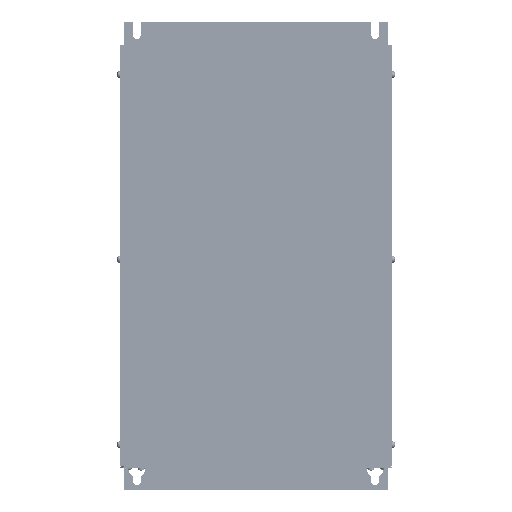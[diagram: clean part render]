
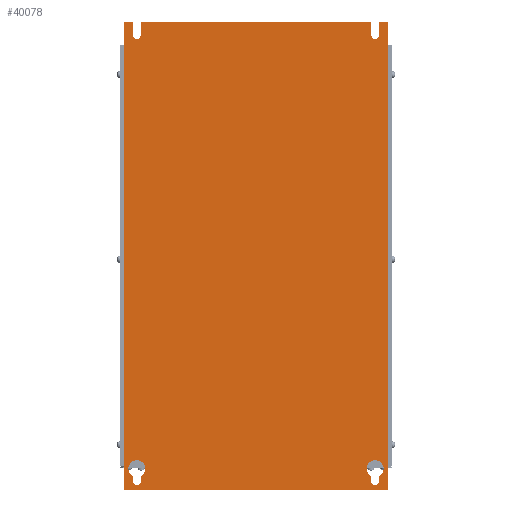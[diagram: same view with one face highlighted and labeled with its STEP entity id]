
A CAD part, front view. The second image highlights one B-rep face of the part: STEP entity #40078.
In plain terms, the highlighted planar face has unit normal (0, -1, 0).
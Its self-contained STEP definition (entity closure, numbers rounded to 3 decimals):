
#1637=DIRECTION('',(1.,0.,0.));
#1638=VECTOR('',#1637,10.5);
#1639=CARTESIAN_POINT('',(-303.,-103.,64.));
#1640=LINE('',#1639,#1638);
#1653=DIRECTION('',(0.,0.,1.));
#1654=VECTOR('',#1653,15.5);
#1655=CARTESIAN_POINT('',(-292.5,-103.,48.5));
#1656=LINE('',#1655,#1654);
#1675=DIRECTION('',(0.,0.,1.));
#1676=VECTOR('',#1675,15.5);
#1677=CARTESIAN_POINT('',(-283.5,-103.,48.5));
#1678=LINE('',#1677,#1676);
#1683=DIRECTION('',(1.,0.,0.));
#1684=VECTOR('',#1683,271.);
#1685=CARTESIAN_POINT('',(-283.5,-103.,64.));
#1686=LINE('',#1685,#1684);
#1703=DIRECTION('',(0.,0.,1.));
#1704=VECTOR('',#1703,15.5);
#1705=CARTESIAN_POINT('',(-12.5,-103.,48.5));
#1706=LINE('',#1705,#1704);
#1715=DIRECTION('',(0.,0.,-1.));
#1716=VECTOR('',#1715,550.);
#1717=CARTESIAN_POINT('',(7.,-103.,64.));
#1718=LINE('',#1717,#1716);
#1719=DIRECTION('',(-1.,0.,0.));
#1720=VECTOR('',#1719,310.);
#1721=CARTESIAN_POINT('',(7.,-103.,-486.));
#1722=LINE('',#1721,#1720);
#1723=DIRECTION('',(0.,0.,1.));
#1724=VECTOR('',#1723,550.);
#1725=CARTESIAN_POINT('',(-303.,-103.,-486.));
#1726=LINE('',#1725,#1724);
#1727=CARTESIAN_POINT('',(-288.,-103.,48.5));
#1728=DIRECTION('',(0.,1.,0.));
#1729=DIRECTION('',(1.,0.,0.));
#1730=AXIS2_PLACEMENT_3D('',#1727,#1728,#1729);
#1732=CARTESIAN_POINT('',(-8.,-103.,48.5));
#1733=DIRECTION('',(0.,1.,0.));
#1734=DIRECTION('',(1.,0.,0.));
#1735=AXIS2_PLACEMENT_3D('',#1732,#1733,#1734);
#1737=CARTESIAN_POINT('',(-288.,-103.,-461.));
#1738=DIRECTION('',(0.,1.,0.));
#1739=DIRECTION('',(-0.45,0.,-0.893));
#1740=AXIS2_PLACEMENT_3D('',#1737,#1738,#1739);
#1742=CARTESIAN_POINT('',(-288.,-103.,-476.));
#1743=DIRECTION('',(0.,1.,0.));
#1744=DIRECTION('',(1.,0.,0.));
#1745=AXIS2_PLACEMENT_3D('',#1742,#1743,#1744);
#1747=CARTESIAN_POINT('',(-8.,-103.,-461.));
#1748=DIRECTION('',(0.,1.,0.));
#1749=DIRECTION('',(-0.45,0.,-0.893));
#1750=AXIS2_PLACEMENT_3D('',#1747,#1748,#1749);
#1752=CARTESIAN_POINT('',(-8.,-103.,-476.));
#1753=DIRECTION('',(0.,1.,0.));
#1754=DIRECTION('',(1.,0.,0.));
#1755=AXIS2_PLACEMENT_3D('',#1752,#1753,#1754);
#1757=DIRECTION('',(0.,0.,1.));
#1758=VECTOR('',#1757,15.5);
#1759=CARTESIAN_POINT('',(-3.5,-103.,48.5));
#1760=LINE('',#1759,#1758);
#1769=DIRECTION('',(1.,0.,0.));
#1770=VECTOR('',#1769,10.5);
#1771=CARTESIAN_POINT('',(-3.5,-103.,64.));
#1772=LINE('',#1771,#1770);
#7669=DIRECTION('',(0.,0.,1.));
#7670=VECTOR('',#7669,6.07);
#7671=CARTESIAN_POINT('',(-3.5,-103.,-476.));
#7672=LINE('',#7671,#7670);
#7685=DIRECTION('',(0.,0.,1.));
#7686=VECTOR('',#7685,6.07);
#7687=CARTESIAN_POINT('',(-12.5,-103.,-476.));
#7688=LINE('',#7687,#7686);
#7701=DIRECTION('',(0.,0.,1.));
#7702=VECTOR('',#7701,6.07);
#7703=CARTESIAN_POINT('',(-283.5,-103.,-476.));
#7704=LINE('',#7703,#7702);
#7717=DIRECTION('',(0.,0.,1.));
#7718=VECTOR('',#7717,6.07);
#7719=CARTESIAN_POINT('',(-292.5,-103.,-476.));
#7720=LINE('',#7719,#7718);
#28867=CARTESIAN_POINT('',(-303.,-103.,-486.));
#28868=VERTEX_POINT('',#28867);
#28869=CARTESIAN_POINT('',(-303.,-103.,64.));
#28870=VERTEX_POINT('',#28869);
#31213=CARTESIAN_POINT('',(7.,-103.,-486.));
#31214=VERTEX_POINT('',#31213);
#31243=CARTESIAN_POINT('',(7.,-103.,64.));
#31244=VERTEX_POINT('',#31243);
#31259=CARTESIAN_POINT('',(-3.5,-103.,48.5));
#31260=CARTESIAN_POINT('',(-3.5,-103.,64.));
#31261=VERTEX_POINT('',#31259);
#31262=VERTEX_POINT('',#31260);
#31263=CARTESIAN_POINT('',(-12.5,-103.,48.5));
#31264=VERTEX_POINT('',#31263);
#31265=CARTESIAN_POINT('',(-12.5,-103.,64.));
#31266=VERTEX_POINT('',#31265);
#31267=CARTESIAN_POINT('',(-283.5,-103.,64.));
#31268=VERTEX_POINT('',#31267);
#31269=CARTESIAN_POINT('',(-283.5,-103.,48.5));
#31270=VERTEX_POINT('',#31269);
#31271=CARTESIAN_POINT('',(-292.5,-103.,48.5));
#31272=VERTEX_POINT('',#31271);
#31273=CARTESIAN_POINT('',(-292.5,-103.,64.));
#31274=VERTEX_POINT('',#31273);
#31275=CARTESIAN_POINT('',(-292.5,-103.,-469.93));
#31276=CARTESIAN_POINT('',(-283.5,-103.,-469.93));
#31277=VERTEX_POINT('',#31275);
#31278=VERTEX_POINT('',#31276);
#31279=CARTESIAN_POINT('',(-283.5,-103.,-476.));
#31280=VERTEX_POINT('',#31279);
#31281=CARTESIAN_POINT('',(-292.5,-103.,-476.));
#31282=VERTEX_POINT('',#31281);
#31283=CARTESIAN_POINT('',(-12.5,-103.,-469.93));
#31284=CARTESIAN_POINT('',(-3.5,-103.,-469.93));
#31285=VERTEX_POINT('',#31283);
#31286=VERTEX_POINT('',#31284);
#31287=CARTESIAN_POINT('',(-3.5,-103.,-476.));
#31288=VERTEX_POINT('',#31287);
#31289=CARTESIAN_POINT('',(-12.5,-103.,-476.));
#31290=VERTEX_POINT('',#31289);
#40035=CARTESIAN_POINT('',(-148.,-103.,-211.));
#40036=DIRECTION('',(0.,1.,0.));
#40037=DIRECTION('',(0.,0.,-1.));
#40038=AXIS2_PLACEMENT_3D('',#40035,#40036,#40037);
#40039=PLANE('',#40038);
#40041=ORIENTED_EDGE('',*,*,#40040,.T.);
#40043=ORIENTED_EDGE('',*,*,#40042,.T.);
#40044=ORIENTED_EDGE('',*,*,#39659,.T.);
#40046=ORIENTED_EDGE('',*,*,#40045,.T.);
#40047=ORIENTED_EDGE('',*,*,#39868,.T.);
#40048=ORIENTED_EDGE('',*,*,#39926,.T.);
#40049=ORIENTED_EDGE('',*,*,#39946,.F.);
#40051=ORIENTED_EDGE('',*,*,#40050,.F.);
#40052=ORIENTED_EDGE('',*,*,#39985,.T.);
#40053=ORIENTED_EDGE('',*,*,#40000,.T.);
#40054=ORIENTED_EDGE('',*,*,#40016,.F.);
#40055=ORIENTED_EDGE('',*,*,#40026,.F.);
#40056=EDGE_LOOP('',(#40041,#40043,#40044,#40046,#40047,#40048,#40049,#40051,
#40052,#40053,#40054,#40055));
#40057=FACE_OUTER_BOUND('',#40056,.F.);
#40059=ORIENTED_EDGE('',*,*,#40058,.F.);
#40061=ORIENTED_EDGE('',*,*,#40060,.F.);
#40063=ORIENTED_EDGE('',*,*,#40062,.F.);
#40065=ORIENTED_EDGE('',*,*,#40064,.T.);
#40066=EDGE_LOOP('',(#40059,#40061,#40063,#40065));
#40067=FACE_BOUND('',#40066,.F.);
#40069=ORIENTED_EDGE('',*,*,#40068,.F.);
#40071=ORIENTED_EDGE('',*,*,#40070,.F.);
#40073=ORIENTED_EDGE('',*,*,#40072,.F.);
#40075=ORIENTED_EDGE('',*,*,#40074,.T.);
#40076=EDGE_LOOP('',(#40069,#40071,#40073,#40075));
#40077=FACE_BOUND('',#40076,.F.);
#40078=ADVANCED_FACE('',(#40057,#40067,#40077),#40039,.F.);
#1731=CIRCLE('',#1730,4.5);
#1736=CIRCLE('',#1735,4.5);
#1741=CIRCLE('',#1740,10.);
#1746=CIRCLE('',#1745,4.5);
#1751=CIRCLE('',#1750,10.);
#1756=CIRCLE('',#1755,4.5);
#39659=EDGE_CURVE('',#31244,#31214,#1718,.T.);
#39868=EDGE_CURVE('',#28868,#28870,#1726,.T.);
#39926=EDGE_CURVE('',#28870,#31274,#1640,.T.);
#39946=EDGE_CURVE('',#31272,#31274,#1656,.T.);
#39985=EDGE_CURVE('',#31270,#31268,#1678,.T.);
#40000=EDGE_CURVE('',#31268,#31266,#1686,.T.);
#40016=EDGE_CURVE('',#31264,#31266,#1706,.T.);
#40026=EDGE_CURVE('',#31261,#31264,#1736,.T.);
#40040=EDGE_CURVE('',#31261,#31262,#1760,.T.);
#40042=EDGE_CURVE('',#31262,#31244,#1772,.T.);
#40045=EDGE_CURVE('',#31214,#28868,#1722,.T.);
#40050=EDGE_CURVE('',#31270,#31272,#1731,.T.);
#40058=EDGE_CURVE('',#31277,#31278,#1741,.T.);
#40060=EDGE_CURVE('',#31282,#31277,#7720,.T.);
#40062=EDGE_CURVE('',#31280,#31282,#1746,.T.);
#40064=EDGE_CURVE('',#31280,#31278,#7704,.T.);
#40068=EDGE_CURVE('',#31285,#31286,#1751,.T.);
#40070=EDGE_CURVE('',#31290,#31285,#7688,.T.);
#40072=EDGE_CURVE('',#31288,#31290,#1756,.T.);
#40074=EDGE_CURVE('',#31288,#31286,#7672,.T.);
